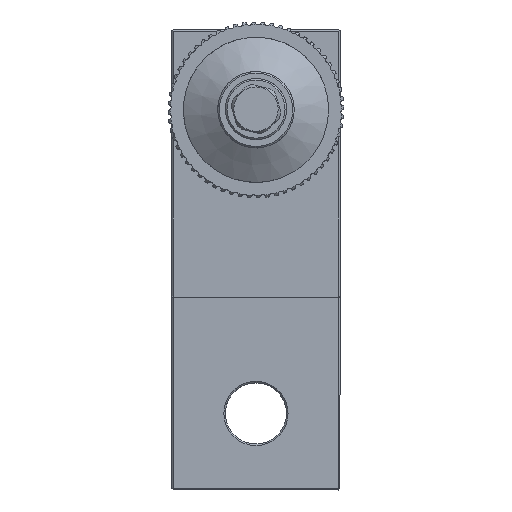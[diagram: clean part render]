
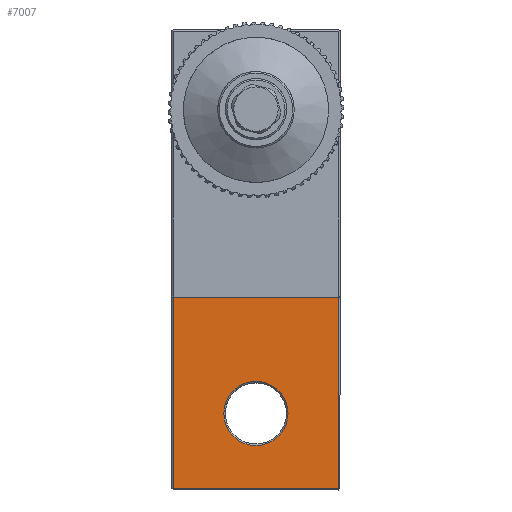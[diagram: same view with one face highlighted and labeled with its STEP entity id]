
A CAD part, top view. The second image highlights one B-rep face of the part: STEP entity #7007.
In plain terms, the highlighted planar face has unit normal (0, 0, 1).
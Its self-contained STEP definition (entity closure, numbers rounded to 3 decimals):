
#340 = ORIENTED_EDGE ( 'NONE', *, *, #18069, .T. ) ;
#652 = CARTESIAN_POINT ( 'NONE',  ( -10.815, -42.395, 22. ) ) ;
#1225 = CARTESIAN_POINT ( 'NONE',  ( -11.015, -42.594, 22. ) ) ;
#1900 = ORIENTED_EDGE ( 'NONE', *, *, #3396, .T. ) ;
#2340 = LINE ( 'NONE', #21818, #2676 ) ;
#2590 = ORIENTED_EDGE ( 'NONE', *, *, #13558, .T. ) ;
#2676 = VECTOR ( 'NONE', #19860, 1000. ) ;
#3250 = ORIENTED_EDGE ( 'NONE', *, *, #27173, .T. ) ;
#3396 = EDGE_CURVE ( 'NONE', #4944, #18565, #13912, .T. ) ;
#3494 = DIRECTION ( 'NONE',  ( 1., 0., 0. ) ) ;
#4498 = VECTOR ( 'NONE', #16588, 1000. ) ;
#4944 = VERTEX_POINT ( 'NONE', #26290 ) ;
#5269 = EDGE_LOOP ( 'NONE', ( #2590 ) ) ;
#5736 = DIRECTION ( 'NONE',  ( 0., 0., 1. ) ) ;
#6404 = CARTESIAN_POINT ( 'NONE',  ( -0.01, -32.6, 22. ) ) ;
#6736 = CARTESIAN_POINT ( 'NONE',  ( -10.815, -42.395, 22. ) ) ;
#7007 = ADVANCED_FACE ( 'NONE', ( #16210, #20976 ), #27344, .T. ) ;
#9830 = LINE ( 'NONE', #24769, #4498 ) ;
#10035 = VERTEX_POINT ( 'NONE', #19775 ) ;
#10966 = EDGE_LOOP ( 'NONE', ( #1900, #3250, #340, #25355 ) ) ;
#11780 = DIRECTION ( 'NONE',  ( 0.001, 1., 0. ) ) ;
#13002 = CARTESIAN_POINT ( 'NONE',  ( 10.815, 17.195, 22. ) ) ;
#13194 = AXIS2_PLACEMENT_3D ( 'NONE', #1225, #5736, #3494 ) ;
#13558 = EDGE_CURVE ( 'NONE', #17430, #17430, #22286, .T. ) ;
#13733 = AXIS2_PLACEMENT_3D ( 'NONE', #6404, #25197, #23210 ) ;
#13912 = LINE ( 'NONE', #22510, #24195 ) ;
#15150 = VECTOR ( 'NONE', #15485, 1000. ) ;
#15485 = DIRECTION ( 'NONE',  ( 1., -0.001, 0. ) ) ;
#16210 = FACE_OUTER_BOUND ( 'NONE', #10966, .T. ) ;
#16588 = DIRECTION ( 'NONE',  ( -1., 0.001, 0. ) ) ;
#17430 = VERTEX_POINT ( 'NONE', #19110 ) ;
#17474 = LINE ( 'NONE', #6736, #15150 ) ;
#18069 = EDGE_CURVE ( 'NONE', #10035, #21519, #2340, .T. ) ;
#18565 = VERTEX_POINT ( 'NONE', #13002 ) ;
#19110 = CARTESIAN_POINT ( 'NONE',  ( 4.19, -32.6, 22. ) ) ;
#19775 = CARTESIAN_POINT ( 'NONE',  ( -10.785, 17.205, 22. ) ) ;
#19860 = DIRECTION ( 'NONE',  ( -0.001, -1., 0. ) ) ;
#20976 = FACE_BOUND ( 'NONE', #5269, .T. ) ;
#21519 = VERTEX_POINT ( 'NONE', #652 ) ;
#21818 = CARTESIAN_POINT ( 'NONE',  ( -10.785, 17.205, 22. ) ) ;
#22286 = CIRCLE ( 'NONE', #13733, 4.2 ) ;
#22510 = CARTESIAN_POINT ( 'NONE',  ( 10.785, -42.405, 22. ) ) ;
#23210 = DIRECTION ( 'NONE',  ( 1., 0., 0. ) ) ;
#23731 = EDGE_CURVE ( 'NONE', #21519, #4944, #17474, .T. ) ;
#24195 = VECTOR ( 'NONE', #11780, 1000. ) ;
#24769 = CARTESIAN_POINT ( 'NONE',  ( 10.815, 17.195, 22. ) ) ;
#25197 = DIRECTION ( 'NONE',  ( 0., 0., -1. ) ) ;
#25355 = ORIENTED_EDGE ( 'NONE', *, *, #23731, .T. ) ;
#26290 = CARTESIAN_POINT ( 'NONE',  ( 10.785, -42.405, 22. ) ) ;
#27173 = EDGE_CURVE ( 'NONE', #18565, #10035, #9830, .T. ) ;
#27344 = PLANE ( 'NONE',  #13194 ) ;
